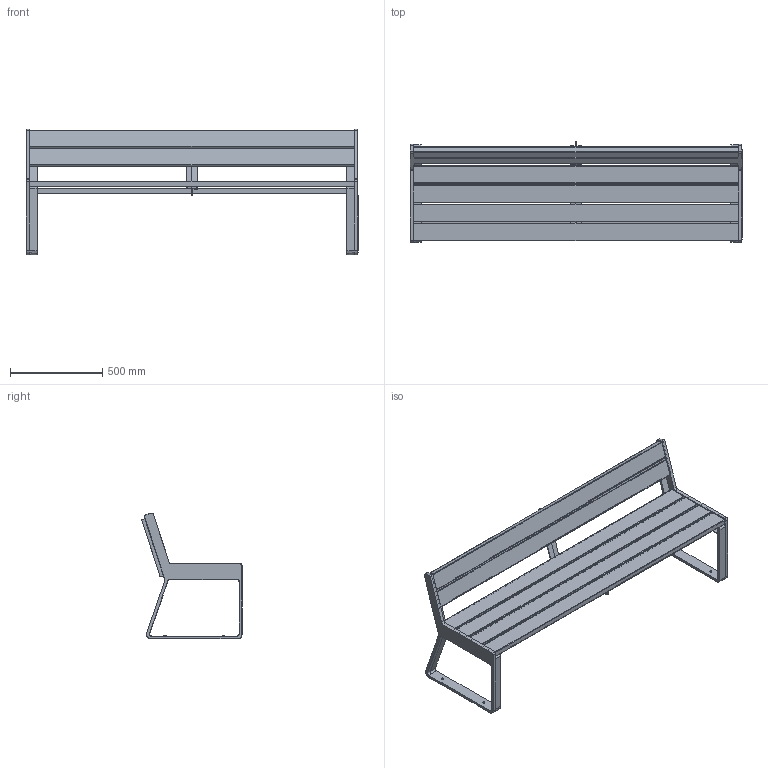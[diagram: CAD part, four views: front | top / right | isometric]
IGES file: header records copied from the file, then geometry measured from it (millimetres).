
Global section: file name: 01ハイバックベンチHB31-18,35HAutoCAD 2025; native system: - 日本語 (Japanese); preprocessor: Autodesk Translation Framework DWG producer (atf_dwg_producer); organization: unknown; date: 20250107.082741; units: millimetre
Bounding box: 1800 x 544.26 x 682.29 mm (x, y, z)
Volume: 37009199.9 mm3; surface area: 9103212.8 mm2
Topology: 93 solids, 93 shells, 1630 faces, 4002 edges, 2530 vertices
Faces by surface type: bspline 1630
